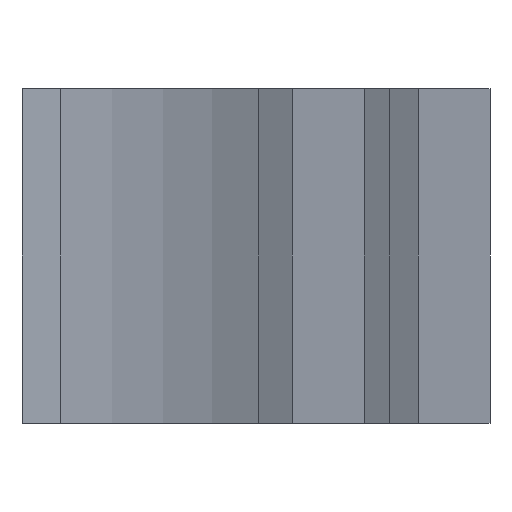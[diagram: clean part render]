
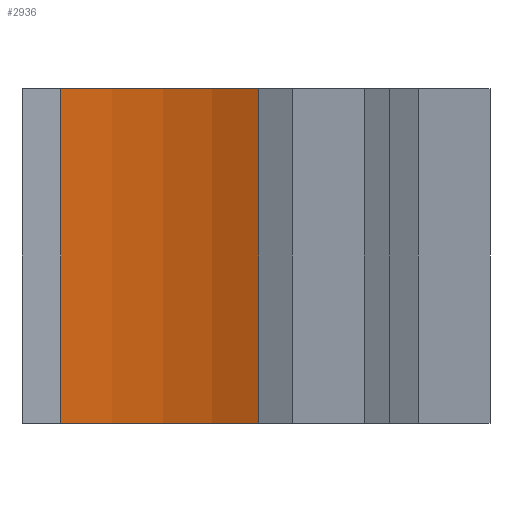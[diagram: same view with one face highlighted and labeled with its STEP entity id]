
A CAD part, left-side view. The second image highlights one B-rep face of the part: STEP entity #2936.
In plain terms, the highlighted cylindrical face has radius 30 mm (diameter 60 mm), a partial arc.
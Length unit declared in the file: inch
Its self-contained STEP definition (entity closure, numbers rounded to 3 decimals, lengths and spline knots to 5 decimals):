
#2878=CARTESIAN_POINT('',(-0.74879,-0.11584,1.0));
#2879=VERTEX_POINT('',#2878);
#2886=CARTESIAN_POINT('',(-0.74879,-0.11584,0.0));
#2887=VERTEX_POINT('',#2886);
#2888=CARTESIAN_POINT('',(-0.74879,-0.11584,0.0));
#2889=DIRECTION('',(0.0,0.0,1.0));
#2890=VECTOR('',#2889,1.0);
#2891=LINE('',#2888,#2890);
#2892=EDGE_CURVE('',#2887,#2879,#2891,.T.);
#2904=CARTESIAN_POINT('',(-1.77165,0.47471,0.0));
#2905=DIRECTION('',(0.0,0.0,1.0));
#2906=DIRECTION('',(0.866,-0.5,0.0));
#2907=AXIS2_PLACEMENT_3D('',#2904,#2905,#2906);
#2908=CYLINDRICAL_SURFACE('',#2907,1.1811);
#2909=CARTESIAN_POINT('',(-0.59055,0.47471,1.0));
#2910=VERTEX_POINT('',#2909);
#2911=CARTESIAN_POINT('',(-1.77165,0.47471,1.0));
#2912=DIRECTION('',(0.0,0.0,1.0));
#2913=DIRECTION('',(0.866,-0.5,0.0));
#2914=AXIS2_PLACEMENT_3D('',#2911,#2912,#2913);
#2915=CIRCLE('',#2914,1.1811);
#2916=EDGE_CURVE('',#2879,#2910,#2915,.T.);
#2917=ORIENTED_EDGE('',*,*,#2916,.T.);
#2918=CARTESIAN_POINT('',(-0.59055,0.47471,0.0));
#2919=VERTEX_POINT('',#2918);
#2920=CARTESIAN_POINT('',(-0.59055,0.47471,0.0));
#2921=DIRECTION('',(0.0,0.0,1.0));
#2922=VECTOR('',#2921,1.0);
#2923=LINE('',#2920,#2922);
#2924=EDGE_CURVE('',#2919,#2910,#2923,.T.);
#2925=ORIENTED_EDGE('',*,*,#2924,.F.);
#2926=CARTESIAN_POINT('',(-1.77165,0.47471,0.0));
#2927=DIRECTION('',(0.0,0.0,1.0));
#2928=DIRECTION('',(0.866,-0.5,0.0));
#2929=AXIS2_PLACEMENT_3D('',#2926,#2927,#2928);
#2930=CIRCLE('',#2929,1.1811);
#2931=EDGE_CURVE('',#2887,#2919,#2930,.T.);
#2932=ORIENTED_EDGE('',*,*,#2931,.F.);
#2933=ORIENTED_EDGE('',*,*,#2892,.T.);
#2934=EDGE_LOOP('',(#2917,#2925,#2932,#2933));
#2935=FACE_OUTER_BOUND('',#2934,.T.);
#2936=ADVANCED_FACE('',(#2935),#2908,.F.);
